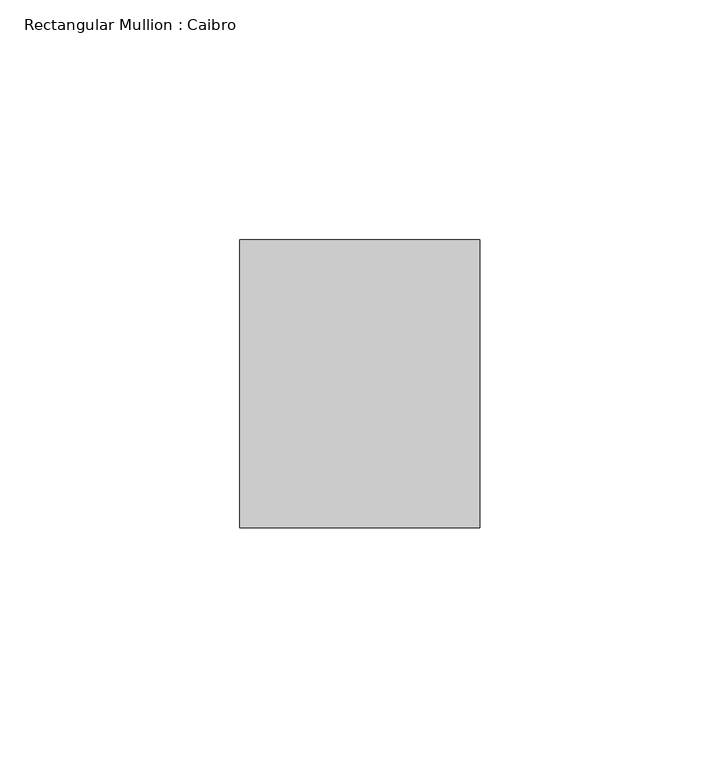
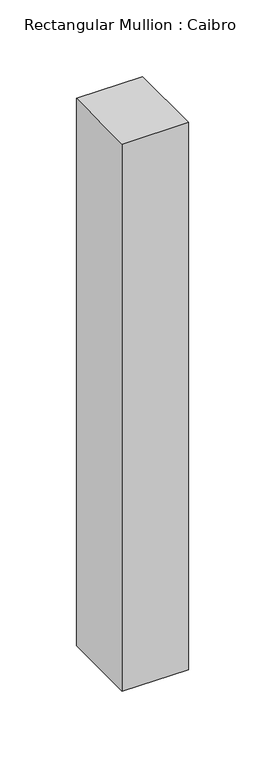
"""IFC4 building model written with IfcOpenShell, lengths in millimetres: member geometry, Rectangular Mullion : Caibro."""

from ifc_helpers import new_model, si_unit, frame, origin, place, context, project, spatial, polyline, outline, extrude, source, transform, mapped, element, save


def rectangular_mullion_caibro_2ce6d6ec(model_context):
    return source(origin(), model_context, "Body", "SweptSolid", [
        extrude(outline(polyline([(0.0, -60.0), (-50.0, -60.0), (-50.0, 0.0), (0.0, 0.0), (0.0, -60.0)])), frame((0.0, 0.0, -436.4764043), z_axis=(0.0, 0.0, 1.0), x_axis=(1.0, 0.0, 0.0)), (0.0, 0.0, 1.0), 436.4764043),
    ])


if __name__ == "__main__":
    model = new_model("IFC4")
    model_context = context("Model", 3, world=origin())
    ifc_project = project(units=[si_unit("LENGTHUNIT", "METRE", prefix="MILLI")], contexts=[model_context])
    site = spatial("IfcSite", under=ifc_project)
    building = spatial("IfcBuilding", under=site)
    placement = place(None, origin())
    rectangular_mullion_caibro_shape = rectangular_mullion_caibro_2ce6d6ec(model_context)
    element("IfcMember", 1, ObjectType="Rectangular Mullion : Caibro", at=placement, inside=building, context=model_context, shape_type="MappedRepresentation", body=[
        mapped(rectangular_mullion_caibro_shape, transform((0.0, 0.0, 0.0), x_axis=(1.0, 0.0, 0.0), y_axis=(0.0, 1.0, 0.0), z_axis=(0.0, 0.0, 1.0))),
    ])
    save(model, "model.ifc")
